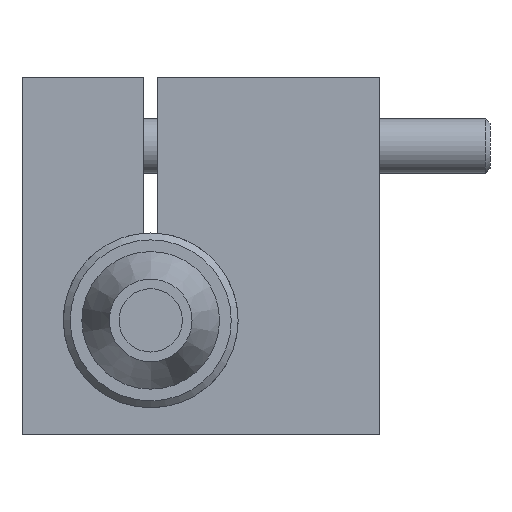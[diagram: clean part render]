
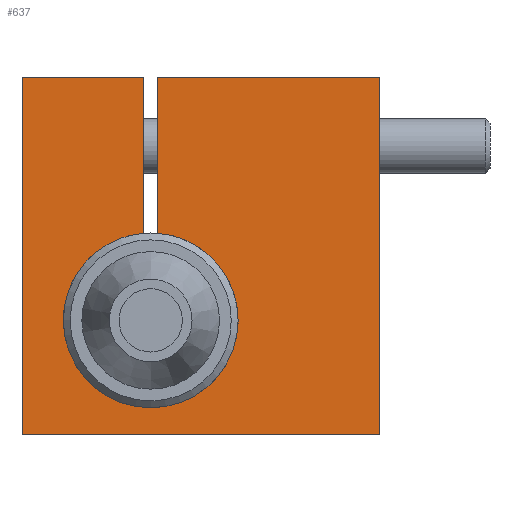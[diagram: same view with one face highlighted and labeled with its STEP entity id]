
A CAD part, left-side view. The second image highlights one B-rep face of the part: STEP entity #637.
In plain terms, the highlighted planar face has unit normal (-1, 0, 0).
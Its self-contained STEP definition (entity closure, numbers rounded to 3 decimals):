
#334=FACE_OUTER_BOUND('',#2093,.T.);
#637=ADVANCED_FACE('',(#334),#925,.T.);
#925=PLANE('',#5135);
#1160=LINE('',#7162,#1522);
#1164=LINE('',#7173,#1526);
#1168=LINE('',#7187,#1530);
#1169=LINE('',#7189,#1531);
#1170=LINE('',#7193,#1532);
#1171=LINE('',#7195,#1533);
#1172=LINE('',#7196,#1534);
#1522=VECTOR('',#5803,1.);
#1526=VECTOR('',#5811,1.);
#1530=VECTOR('',#5823,1.);
#1531=VECTOR('',#5824,1.);
#1532=VECTOR('',#5827,1.);
#1533=VECTOR('',#5828,1.);
#1534=VECTOR('',#5829,1.);
#2093=EDGE_LOOP('',(#2699,#2700,#2701,#2702,#2703,#2704,#2705,#2706));
#2699=ORIENTED_EDGE('',*,*,#4346,.F.);
#2700=ORIENTED_EDGE('',*,*,#4347,.T.);
#2701=ORIENTED_EDGE('',*,*,#4348,.F.);
#2702=ORIENTED_EDGE('',*,*,#4349,.T.);
#2703=ORIENTED_EDGE('',*,*,#4350,.F.);
#2704=ORIENTED_EDGE('',*,*,#4334,.F.);
#2705=ORIENTED_EDGE('',*,*,#4351,.F.);
#2706=ORIENTED_EDGE('',*,*,#4339,.F.);
#3827=VERTEX_POINT('',#7156);
#3830=VERTEX_POINT('',#7161);
#3832=VERTEX_POINT('',#7167);
#3835=VERTEX_POINT('',#7172);
#3842=VERTEX_POINT('',#7188);
#3843=VERTEX_POINT('',#7190);
#3844=VERTEX_POINT('',#7192);
#3845=VERTEX_POINT('',#7194);
#4334=EDGE_CURVE('',#3830,#3827,#1160,.T.);
#4339=EDGE_CURVE('',#3835,#3832,#1164,.T.);
#4346=EDGE_CURVE('',#3842,#3835,#1168,.T.);
#4347=EDGE_CURVE('',#3842,#3843,#1169,.T.);
#4348=EDGE_CURVE('',#3844,#3843,#4891,.T.);
#4349=EDGE_CURVE('',#3844,#3845,#1170,.T.);
#4350=EDGE_CURVE('',#3827,#3845,#1171,.T.);
#4351=EDGE_CURVE('',#3832,#3830,#1172,.T.);
#4891=CIRCLE('',#5134,6.35);
#5134=AXIS2_PLACEMENT_3D('',#7191,#5825,#5826);
#5135=AXIS2_PLACEMENT_3D('',#7197,#5830,#5831);
#5803=DIRECTION('',(0.,0.,1.));
#5811=DIRECTION('',(0.,0.,-1.));
#5823=DIRECTION('',(0.,-1.,0.));
#5824=DIRECTION('',(0.,0.,-1.));
#5825=DIRECTION('',(-1.,0.,0.));
#5826=DIRECTION('',(0.,0.,1.));
#5827=DIRECTION('',(0.,0.,1.));
#5828=DIRECTION('',(0.,-1.,0.));
#5829=DIRECTION('',(0.,1.,0.));
#5830=DIRECTION('',(-1.,0.,0.));
#5831=DIRECTION('',(0.,0.,1.));
#7156=CARTESIAN_POINT('',(-13.3,-87.,73.));
#7161=CARTESIAN_POINT('',(-13.3,-87.,47.));
#7162=CARTESIAN_POINT('',(-13.3,-87.,60.));
#7167=CARTESIAN_POINT('',(-13.3,-113.,47.));
#7172=CARTESIAN_POINT('',(-13.3,-113.,73.));
#7173=CARTESIAN_POINT('',(-13.3,-113.,60.));
#7187=CARTESIAN_POINT('',(-13.3,-100.,73.));
#7188=CARTESIAN_POINT('',(-13.3,-96.851,73.));
#7189=CARTESIAN_POINT('',(-13.3,-96.851,66.674));
#7190=CARTESIAN_POINT('',(-13.3,-96.851,61.654));
#7191=CARTESIAN_POINT('',(-13.3,-96.351,55.324));
#7192=CARTESIAN_POINT('',(-13.3,-95.851,61.654));
#7193=CARTESIAN_POINT('',(-13.3,-95.851,66.674));
#7194=CARTESIAN_POINT('',(-13.3,-95.851,73.));
#7195=CARTESIAN_POINT('',(-13.3,-100.,73.));
#7196=CARTESIAN_POINT('',(-13.3,-100.,47.));
#7197=CARTESIAN_POINT('',(-13.3,-100.,60.));
